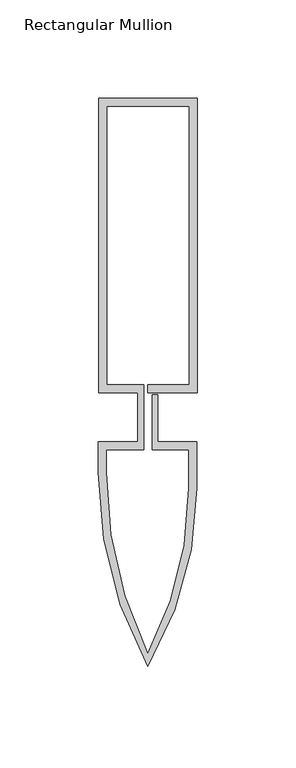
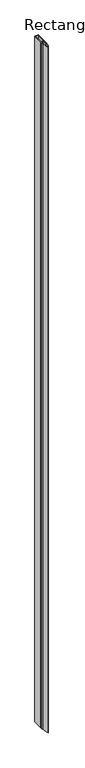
"""IFC4 building model written with IfcOpenShell, lengths in millimetres: member geometry, Rectangular Mullion : Reynaers_CW-50_Mullion-Transom_Vertical_149.5mm_Facecap-05."""

import ifcopenshell
import ifcopenshell.guid

model = None  # the IFC model being written
_history = None  # IfcOwnerHistory: only IFC2X3 demands one
_inside = {}  # id of a spatial element -> (the spatial element, [elements in it])
_under = {}  # id of a project, library or spatial element -> (it, [spatial elements below it])
_declared = {}  # id of a project -> (the project, [libraries it declares])
_typed = {}  # id of a type object -> (the type object, [elements of that type])
_made_of = {}  # id of a material, layer set ... -> (it, [elements and type objects made of it])


def new_model(schema):
    """Start an empty IFC model of exactly this schema.

    Asked for "IFC4X3", IfcOpenShell would pick the latest addendum, in which some entities
    have other attributes; the version numbers below select the first issue.
    IFC2X3 requires an IfcOwnerHistory on every rooted entity: one is made here for all.
    """
    global model, _history
    if schema == "IFC4X3":
        model = ifcopenshell.file(schema_version=(4, 3, 0, 0))
    else:
        model = ifcopenshell.file(schema=schema)
    _inside.clear()
    _under.clear()
    _declared.clear()
    _typed.clear()
    _made_of.clear()
    _history = None
    if model.schema == "IFC2X3":
        org = make("IfcOrganization", Name="unknown")
        user = make(
            "IfcPersonAndOrganization",
            ThePerson=make("IfcPerson", FamilyName="unknown"),
            TheOrganization=org,
        )
        app = make(
            "IfcApplication",
            ApplicationDeveloper=org,
            Version="unknown",
            ApplicationFullName="unknown",
            ApplicationIdentifier="unknown",
        )
        _history = make(
            "IfcOwnerHistory",
            OwningUser=user,
            OwningApplication=app,
            ChangeAction="ADDED",
            CreationDate=0,
        )
    return model


def make(cls, **values):
    """One entity of the class cls with the attributes given. An attribute that is None is left unset."""
    return model.create_entity(
        cls, **{name: value for name, value in values.items() if value is not None}
    )


def rooted(cls, **values):
    """An entity with a GlobalId (a new one), such as an element, a storey or a relation."""
    return make(cls, GlobalId=ifcopenshell.guid.new(), OwnerHistory=_history, **values)


def si_unit(unit_type, name, prefix=None):
    """IfcSIUnit, for example si_unit("LENGTHUNIT", "METRE", prefix="MILLI")."""
    return make("IfcSIUnit", UnitType=unit_type, Prefix=prefix, Name=name)


def assignment(units):
    """IfcUnitAssignment: the units of a project."""
    return None if units is None else make("IfcUnitAssignment", Units=units)


def point(xyz):
    """IfcCartesianPoint."""
    return None if xyz is None else make("IfcCartesianPoint", Coordinates=xyz)


def direction(xyz):
    """IfcDirection."""
    return None if xyz is None else make("IfcDirection", DirectionRatios=xyz)


def frame(location, z_axis=None, x_axis=None):
    """IfcAxis2Placement3D, a coordinate frame: its origin and axes. An axis left out is left unset."""
    return make(
        "IfcAxis2Placement3D",
        Location=point(location),
        Axis=direction(z_axis),
        RefDirection=direction(x_axis),
    )


def frame_2d(location, x_axis=None):
    """IfcAxis2Placement2D, a coordinate frame in the plane: its origin and x axis."""
    return make(
        "IfcAxis2Placement2D", Location=point(location), RefDirection=direction(x_axis)
    )


def origin():
    """The frame at (0, 0, 0) with its axes left unset."""
    return frame((0.0, 0.0, 0.0))


def place(relative_to, where):
    """IfcLocalPlacement: puts the frame where relative to a parent placement (None: the world)."""
    return make(
        "IfcLocalPlacement", PlacementRelTo=relative_to, RelativePlacement=where
    )


def context(
    kind, dimensions, precision=None, world=None, true_north=None, identifier=None
):
    """IfcGeometricRepresentationContext, for example the 3D "Model" context."""
    return make(
        "IfcGeometricRepresentationContext",
        ContextIdentifier=identifier,
        ContextType=kind,
        CoordinateSpaceDimension=dimensions,
        Precision=precision,
        WorldCoordinateSystem=world,
        TrueNorth=true_north,
    )


def project(units=None, contexts=None):
    """IfcProject with its units and contexts."""
    return rooted(
        "IfcProject",
        Name="project",
        RepresentationContexts=contexts,
        UnitsInContext=assignment(units),
    )


def spatial(cls, under=None, at=None, **own):
    """A site, building, storey or space (cls), placed at a placement, below another one or the project."""
    s = rooted(cls, ObjectPlacement=at, **own)
    if under is not None:
        _under.setdefault(under.id(), (under, []))[1].append(s)
    return s


def polyline(points):
    """IfcPolyline through the points."""
    return make("IfcPolyline", Points=[point(p) for p in points])


def circle_curve(where, radius):
    """IfcCircle in the frame where."""
    return make("IfcCircle", Position=where, Radius=radius)


def trimmed(basis, trim1, trim2, sense, master):
    """IfcTrimmedCurve: the piece of a basis curve between two trims."""
    return make(
        "IfcTrimmedCurve",
        BasisCurve=basis,
        Trim1=trim1,
        Trim2=trim2,
        SenseAgreement=sense,
        MasterRepresentation=master,
    )


def segment(curve, same_sense, transition):
    """IfcCompositeCurveSegment."""
    return make(
        "IfcCompositeCurveSegment",
        Transition=transition,
        SameSense=same_sense,
        ParentCurve=curve,
    )


def composite_curve(segments, self_intersect=None):
    """IfcCompositeCurve: segments joined end to end."""
    return make("IfcCompositeCurve", Segments=segments, SelfIntersect=self_intersect)


def outline(outer, holes=None, kind="AREA"):
    """IfcArbitraryClosedProfileDef: a profile drawn as a closed curve; with holes, ...WithVoids."""
    if holes is None:
        return make("IfcArbitraryClosedProfileDef", ProfileType=kind, OuterCurve=outer)
    return make(
        "IfcArbitraryProfileDefWithVoids",
        ProfileType=kind,
        OuterCurve=outer,
        InnerCurves=holes,
    )


def extrude(swept, where, along, depth):
    """IfcExtrudedAreaSolid: the profile swept, set in the frame where, extruded along a direction by depth."""
    return make(
        "IfcExtrudedAreaSolid",
        SweptArea=swept,
        Position=where,
        ExtrudedDirection=direction(along),
        Depth=depth,
    )


def shape(context_of_items, identifier, shape_type, items):
    """IfcShapeRepresentation: the items that make up one representation, for example the "Body"."""
    return make(
        "IfcShapeRepresentation",
        ContextOfItems=context_of_items,
        RepresentationIdentifier=identifier,
        RepresentationType=shape_type,
        Items=items,
    )


def source(mapping_origin, context_of_items, identifier, shape_type, items):
    """IfcRepresentationMap: a shape defined once, which mapped items show again and again."""
    return make(
        "IfcRepresentationMap",
        MappingOrigin=mapping_origin,
        MappedRepresentation=shape(context_of_items, identifier, shape_type, items),
    )


def transform(
    local_origin,
    x_axis=None,
    y_axis=None,
    z_axis=None,
    scale=None,
    scale2=None,
    scale3=None,
    uniform=True,
):
    """IfcCartesianTransformationOperator3D, or its non-uniform kind. x_axis, y_axis, z_axis: its Axis1, 2, 3."""
    if uniform:
        return make(
            "IfcCartesianTransformationOperator3D",
            Axis1=direction(x_axis),
            Axis2=direction(y_axis),
            LocalOrigin=point(local_origin),
            Scale=scale,
            Axis3=direction(z_axis),
        )
    return make(
        "IfcCartesianTransformationOperator3DnonUniform",
        Axis1=direction(x_axis),
        Axis2=direction(y_axis),
        LocalOrigin=point(local_origin),
        Scale=scale,
        Axis3=direction(z_axis),
        Scale2=scale2,
        Scale3=scale3,
    )


def mapped(mapping_source, mapping_target):
    """IfcMappedItem: shows the shape of a source again, moved by a transform."""
    return make(
        "IfcMappedItem", MappingSource=mapping_source, MappingTarget=mapping_target
    )


def made_of(thing, what):
    """Note that an element or type object is made of a material, layer set ...; save() writes the relation."""
    if what is not None:
        _made_of.setdefault(what.id(), (what, []))[1].append(thing)
    return thing


def element(
    cls,
    number,
    at=None,
    inside=None,
    cuts=None,
    type_object=None,
    material=None,
    context=None,
    identifier="Body",
    shape_type=None,
    held_by="IfcProductDefinitionShape",
    body=None,
    shapes=None,
    **own,
):
    """One element of the class cls, such as IfcWall. Its Tag is "e" and its number.

    at: its placement. inside: the storey or other place that contains it. cuts: it is an
    opening in that element (IfcRelVoidsElement). A single representation is given by context,
    identifier, shape_type and body (its items); several are given by shapes. held_by: the class
    of the entity that holds the representations. save() writes the other relations.
    """
    e = rooted(cls, Tag="e%d" % number, ObjectPlacement=at, **own)
    if body is not None:
        shapes = [shape(context, identifier, shape_type, body)]
    if shapes is not None:
        e.Representation = make(held_by, Representations=shapes)
    if inside is not None:
        _inside.setdefault(inside.id(), (inside, []))[1].append(e)
    if cuts is not None:
        rooted(
            "IfcRelVoidsElement", RelatingBuildingElement=cuts, RelatedOpeningElement=e
        )
    if type_object is not None:
        _typed.setdefault(type_object.id(), (type_object, []))[1].append(e)
    return made_of(e, material)


def aggregate(whole, parts):
    """IfcRelAggregates: a whole, such as a stair, and the parts it consists of."""
    return rooted("IfcRelAggregates", RelatingObject=whole, RelatedObjects=parts)


def save(model, path):
    """Write the relations noted so far, then the file.

    IfcRelAggregates (storeys below a building ...), IfcRelContainedInSpatialStructure (elements
    in a storey), IfcRelDefinesByType, IfcRelAssociatesMaterial and IfcRelDeclares: one each for
    every whole, place, type object, material and project.
    """
    for whole, parts in _under.values():
        aggregate(whole, parts)
    for where, things in _inside.values():
        rooted(
            "IfcRelContainedInSpatialStructure",
            RelatedElements=things,
            RelatingStructure=where,
        )
    for kind, things in _typed.values():
        rooted("IfcRelDefinesByType", RelatedObjects=things, RelatingType=kind)
    for what, things in _made_of.values():
        rooted("IfcRelAssociatesMaterial", RelatedObjects=things, RelatingMaterial=what)
    for by, libraries in _declared.values():
        rooted("IfcRelDeclares", RelatingContext=by, RelatedDefinitions=libraries)
    model.write(path)


def rectangular_mullion_527ebe75(model_context):
    return source(origin(), model_context, "Body", "SweptSolid", [
        extrude(outline(composite_curve([segment(polyline([(-24.8004059, 162.0), (25.1995941, 162.0), (25.1995941, 12.5), (0.0, 12.5), (0.0, 16.5), (21.1995941, 16.5), (21.1995941, 158.0), (-20.8004059, 158.0), (-20.8004059, 16.5), (-1.9004059, 16.5), (-1.9004059, -16.5), (-20.994845, -16.5), (-20.994845, -28.2355063)]), True, "CONTINUOUS"), segment(trimmed(circle_curve(frame_2d((191.2554764, -28.2355063)), 212.2503214), [point((-20.994845, -28.2355063))], [point((0.0, -120.2764846))], True, "CARTESIAN"), True, "CONTINUOUS"), segment(trimmed(circle_curve(frame_2d((-158.432152, -36.0547506)), 179.426997), [point((0.0, -120.2764846))], [point((20.994845, -36.0547506))], True, "CARTESIAN"), True, "CONTINUOUS"), segment(polyline([(20.994845, -36.0547506), (20.994845, -16.5), (2.2995941, -16.5), (2.2995941, 11.5), (5.2995941, 11.5), (5.2995941, -12.5), (24.994845, -12.5), (24.994845, -36.0195976)]), True, "CONTINUOUS"), segment(trimmed(circle_curve(frame_2d((-151.2704106, -36.0195976)), 176.2652556), [point((24.994845, -36.0195976))], [point((0.0, -126.5))], False, "CARTESIAN"), True, "CONTINUOUS"), segment(trimmed(circle_curve(frame_2d((181.1469577, -28.111878)), 206.1418028), [point((0.0, -126.5))], [point((-24.994845, -28.111878))], False, "CARTESIAN"), True, "CONTINUOUS"), segment(polyline([(-24.994845, -28.111878), (-24.994845, -12.5), (-4.9004059, -12.5), (-4.9004059, 12.5), (-24.8004059, 12.5), (-24.8004059, 162.0)]), True, "CONTINUOUS")], self_intersect=False)), frame((0.0, 0.0, -10400.0), z_axis=(0.0, 0.0, 1.0), x_axis=(1.0, 0.0, 0.0)), (0.0, 0.0, 1.0), 10400.0),
    ])


if __name__ == "__main__":
    model = new_model("IFC4")
    model_context = context("Model", 3, world=origin())
    ifc_project = project(units=[si_unit("LENGTHUNIT", "METRE", prefix="MILLI")], contexts=[model_context])
    site = spatial("IfcSite", under=ifc_project)
    building = spatial("IfcBuilding", under=site)
    placement = place(None, origin())
    rectangular_mullion_shape = rectangular_mullion_527ebe75(model_context)
    element("IfcMember", 1, ObjectType="Rectangular Mullion : Reynaers_CW-50_Mullion-Transom_Vertical_149.5mm_Facecap-05", at=placement, inside=building, context=model_context, shape_type="MappedRepresentation", body=[
        mapped(rectangular_mullion_shape, transform((0.0, 0.0, 0.0), x_axis=(1.0, 0.0, 0.0), y_axis=(0.0, 1.0, 0.0), z_axis=(0.0, 0.0, 1.0))),
    ])
    save(model, "model.ifc")
